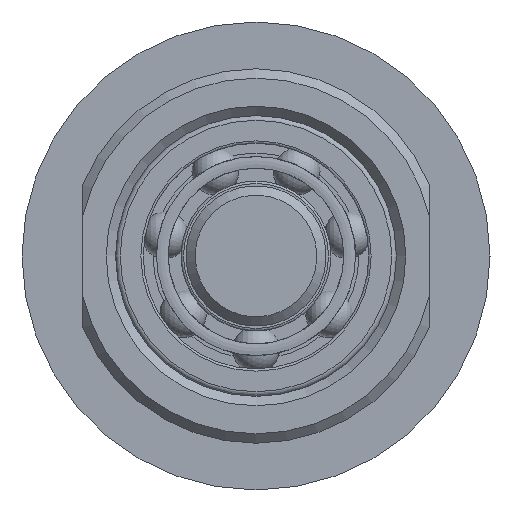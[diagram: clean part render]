
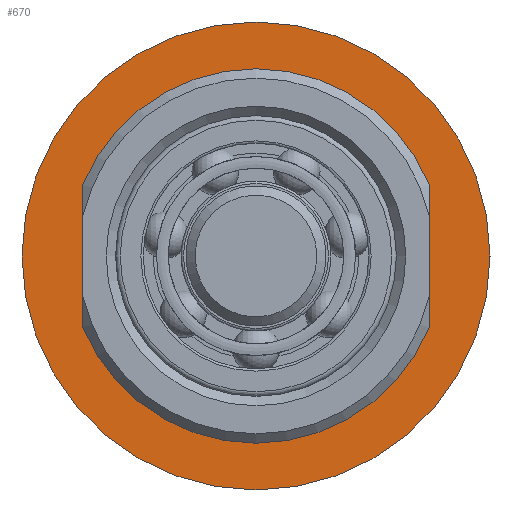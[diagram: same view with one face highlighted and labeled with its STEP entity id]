
A CAD part, left-side view. The second image highlights one B-rep face of the part: STEP entity #670.
In plain terms, the highlighted planar face has unit normal (-1, 0, 0).
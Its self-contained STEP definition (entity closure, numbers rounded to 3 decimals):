
#670=ADVANCED_FACE('',(#1024,#1025),#1026,.F.);
#1024=FACE_BOUND('',#1411,.T.);
#1025=FACE_OUTER_BOUND('',#1412,.T.);
#1026=PLANE('',#1413);
#1411=EDGE_LOOP('',(#1909));
#1412=EDGE_LOOP('',(#1910));
#1413=AXIS2_PLACEMENT_3D('',#1911,#1912,#1913);
#1909=ORIENTED_EDGE('',*,*,#2105,.F.);
#1910=ORIENTED_EDGE('',*,*,#2097,.T.);
#1911=CARTESIAN_POINT('',(2.5,2.1,0.0));
#1912=DIRECTION('',(1.0,0.0,0.0));
#1913=DIRECTION('',(0.0,1.0,0.0));
#2097=EDGE_CURVE('',#2333,#2333,#2334,.T.);
#2105=EDGE_CURVE('',#2342,#2342,#2343,.T.);
#2333=VERTEX_POINT('',#2883);
#2334=CIRCLE('',#2884,2.5);
#2342=VERTEX_POINT('',#2897);
#2343=CIRCLE('',#2898,1.7);
#2883=CARTESIAN_POINT('',(2.5,0.0,2.5));
#2884=AXIS2_PLACEMENT_3D('',#3065,#3066,#3067);
#2897=CARTESIAN_POINT('',(2.5,0.0,1.7));
#2898=AXIS2_PLACEMENT_3D('',#3071,#3072,#3073);
#3065=CARTESIAN_POINT('',(2.5,0.0,0.0));
#3066=DIRECTION('',(-1.0,0.0,0.0));
#3067=DIRECTION('',(0.0,0.0,1.0));
#3071=CARTESIAN_POINT('',(2.5,0.0,0.0));
#3072=DIRECTION('',(-1.0,0.0,0.0));
#3073=DIRECTION('',(0.0,0.0,1.0));
